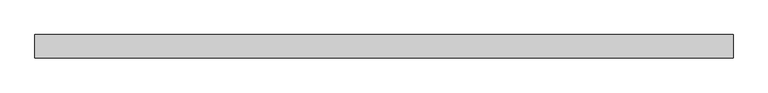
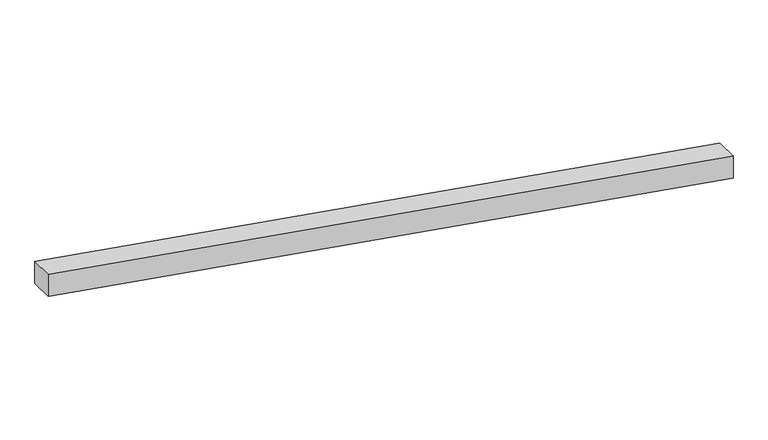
"""IFC4 building model written with IfcOpenShell, lengths in millimetres: proxy geometry, Modelos genéricos 231 : Modelos genéricos 231."""

from ifc_helpers import new_model, si_unit, frame, origin, place, context, project, spatial, polyline, outline, extrude, source, transform, mapped, element, save


def generic_models_69da9097(model_context):
    return source(origin(), model_context, "Body", "SweptSolid", [
        extrude(outline(polyline([(3721.8097831, 9283.4472467), (3600.1445647, 9283.4472467), (3000.0, 12873.4472467), (3121.6652184, 12873.4472467), (3721.8097831, 9283.4472467)])), frame((0.0, -136.3761835, 0.0), z_axis=(0.0, 1.0, 0.0), x_axis=(0.0, 0.0, 1.0)), (0.0, 0.0, 1.0), 120.0),
    ])


if __name__ == "__main__":
    model = new_model("IFC4")
    model_context = context("Model", 3, world=origin())
    ifc_project = project(units=[si_unit("LENGTHUNIT", "METRE", prefix="MILLI")], contexts=[model_context])
    site = spatial("IfcSite", under=ifc_project)
    building = spatial("IfcBuilding", under=site)
    placement = place(None, origin())
    generic_models_shape = generic_models_69da9097(model_context)
    element("IfcBuildingElementProxy", 1, Name="Modelos genéricos 231 : Modelos genéricos 231", ObjectType="Modelos genéricos 231 : Modelos genéricos 231", at=placement, inside=building, context=model_context, shape_type="MappedRepresentation", body=[
        mapped(generic_models_shape, transform((0.0, 0.0, 0.0), x_axis=(1.0, 0.0, 0.0), y_axis=(0.0, 1.0, 0.0), z_axis=(0.0, 0.0, 1.0))),
    ])
    save(model, "model.ifc")
